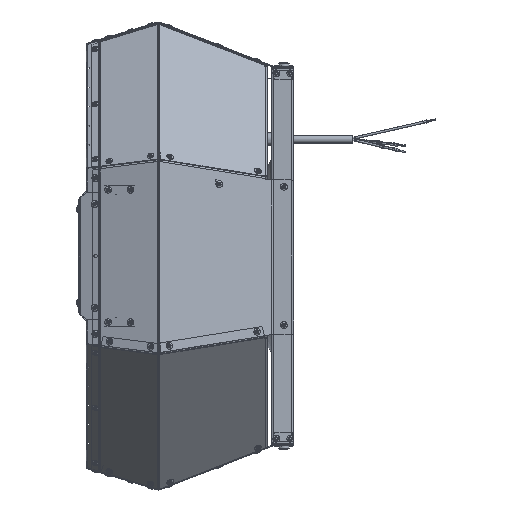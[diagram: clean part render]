
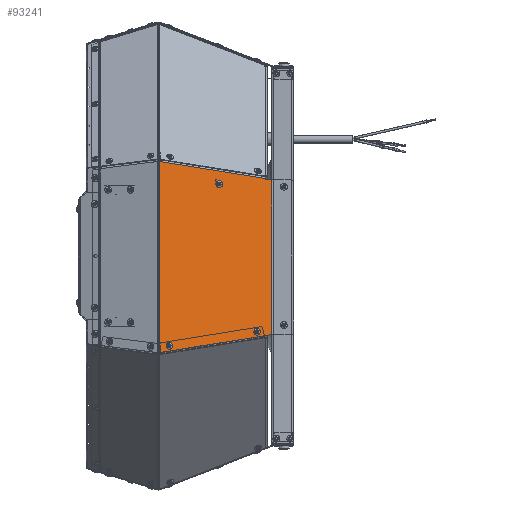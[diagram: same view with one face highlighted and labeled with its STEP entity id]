
A CAD part, left-side view. The second image highlights one B-rep face of the part: STEP entity #93241.
In plain terms, the highlighted planar face has unit normal (-0.932, -0.362, 0).
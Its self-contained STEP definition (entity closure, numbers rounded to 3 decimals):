
#13380 = DIRECTION ( 'NONE',  ( 0.932, 0.362, 0. ) ) ;
#13384 = CARTESIAN_POINT ( 'NONE',  ( -266.123, 120.02, -103.806 ) ) ;
#13401 = CARTESIAN_POINT ( 'NONE',  ( -270.356, 130.903, 111.75 ) ) ;
#13403 = DIRECTION ( 'NONE',  ( 0., 0., -1. ) ) ;
#13691 = DIRECTION ( 'NONE',  ( 0., 0., -1. ) ) ;
#13702 = CARTESIAN_POINT ( 'NONE',  ( -220.093, 1.654, 111.75 ) ) ;
#13753 = DIRECTION ( 'NONE',  ( -0.358, 0.922, 0.148 ) ) ;
#13755 = CARTESIAN_POINT ( 'NONE',  ( -220.221, 1.982, 88.584 ) ) ;
#13761 = DIRECTION ( 'NONE',  ( -0.362, 0.932, 0. ) ) ;
#24555 = AXIS2_PLACEMENT_3D ( 'NONE', #44067, #44057, #44069 ) ;
#25311 = CARTESIAN_POINT ( 'NONE',  ( -220.093, 1.654, 88.025 ) ) ;
#25319 = DIRECTION ( 'NONE',  ( 0.362, -0.932, 0. ) ) ;
#25377 = CARTESIAN_POINT ( 'NONE',  ( -270.34, 130.864, 109.267 ) ) ;
#25386 = DIRECTION ( 'NONE',  ( 0.362, -0.932, 0. ) ) ;
#25426 = DIRECTION ( 'NONE',  ( -0.932, -0.362, 0. ) ) ;
#25428 = CARTESIAN_POINT ( 'NONE',  ( -243.652, 62.234, 83.121 ) ) ;
#25512 = DIRECTION ( 'NONE',  ( 0.362, -0.932, 0. ) ) ;
#31707 = VERTEX_POINT ( 'NONE', #84206 ) ;
#31717 = VERTEX_POINT ( 'NONE', #84188 ) ;
#31885 = VERTEX_POINT ( 'NONE', #83421 ) ;
#31984 = VERTEX_POINT ( 'NONE', #83761 ) ;
#32043 = VERTEX_POINT ( 'NONE', #83948 ) ;
#37798 = AXIS2_PLACEMENT_3D ( 'NONE', #25428, #25426, #25319 ) ;
#37835 = AXIS2_PLACEMENT_3D ( 'NONE', #13384, #13380, #13761 ) ;
#37904 = AXIS2_PLACEMENT_3D ( 'NONE', #45054, #44558, #44272 ) ;
#37906 = AXIS2_PLACEMENT_3D ( 'NONE', #45055, #44570, #45107 ) ;
#37908 = AXIS2_PLACEMENT_3D ( 'NONE', #44275, #44279, #44290 ) ;
#37915 = AXIS2_PLACEMENT_3D ( 'NONE', #44670, #44668, #44630 ) ;
#44057 = DIRECTION ( 'NONE',  ( 0.932, 0.362, 0. ) ) ;
#44067 = CARTESIAN_POINT ( 'NONE',  ( -270.653, 131.669, 111.75 ) ) ;
#44068 = PLANE ( 'NONE',  #24555 ) ;
#44069 = DIRECTION ( 'NONE',  ( -0.362, 0.932, 0. ) ) ;
#44272 = DIRECTION ( 'NONE',  ( -0.362, 0.932, 0. ) ) ;
#44275 = CARTESIAN_POINT ( 'NONE',  ( -226.695, 18.63, -87.481 ) ) ;
#44279 = DIRECTION ( 'NONE',  ( 0.932, 0.362, 0. ) ) ;
#44290 = DIRECTION ( 'NONE',  ( -0.362, 0.932, 0. ) ) ;
#44431 = DIRECTION ( 'NONE',  ( 0., 0., -1. ) ) ;
#44433 = CARTESIAN_POINT ( 'NONE',  ( -222.634, 8.188, 88.025 ) ) ;
#44558 = DIRECTION ( 'NONE',  ( 0.932, 0.362, 0. ) ) ;
#44570 = DIRECTION ( 'NONE',  ( 0.932, 0.362, 0. ) ) ;
#44630 = DIRECTION ( 'NONE',  ( 0.362, -0.932, 0. ) ) ;
#44668 = DIRECTION ( 'NONE',  ( -0.932, -0.362, 0. ) ) ;
#44670 = CARTESIAN_POINT ( 'NONE',  ( -243.652, 62.234, 83.121 ) ) ;
#44698 = CARTESIAN_POINT ( 'NONE',  ( -220.093, 1.654, -90.93 ) ) ;
#44712 = DIRECTION ( 'NONE',  ( -0.358, 0.922, -0.148 ) ) ;
#44983 = CARTESIAN_POINT ( 'NONE',  ( -270.34, 130.864, 109.267 ) ) ;
#45054 = CARTESIAN_POINT ( 'NONE',  ( -266.123, 120.02, -103.806 ) ) ;
#45055 = CARTESIAN_POINT ( 'NONE',  ( -226.695, 18.63, -87.481 ) ) ;
#45107 = DIRECTION ( 'NONE',  ( -0.362, 0.932, 0. ) ) ;
#45108 = DIRECTION ( 'NONE',  ( 0.127, -0.327, 0.936 ) ) ;
#49720 = LINE ( 'NONE', #25377, #49732 ) ;
#49732 = VECTOR ( 'NONE', #25386, 1000. ) ;
#49813 = CIRCLE ( 'NONE', #37798, 2.1 ) ;
#49816 = LINE ( 'NONE', #25311, #49828 ) ;
#49828 = VECTOR ( 'NONE', #25512, 1000. ) ;
#50104 = LINE ( 'NONE', #13401, #50110 ) ;
#50107 = CIRCLE ( 'NONE', #37835, 2.1 ) ;
#50110 = VECTOR ( 'NONE', #13403, 1000. ) ;
#50212 = LINE ( 'NONE', #13702, #50233 ) ;
#50233 = VECTOR ( 'NONE', #13691, 1000. ) ;
#50446 = LINE ( 'NONE', #13755, #50476 ) ;
#50476 = VECTOR ( 'NONE', #13753, 1000. ) ;
#50781 = FACE_BOUND ( 'NONE', #65485, .T. ) ;
#50787 = FACE_BOUND ( 'NONE', #65460, .T. ) ;
#50790 = FACE_OUTER_BOUND ( 'NONE', #65442, .T. ) ;
#50793 = FACE_BOUND ( 'NONE', #65475, .T. ) ;
#50833 = LINE ( 'NONE', #44983, #50839 ) ;
#50839 = VECTOR ( 'NONE', #45108, 1000. ) ;
#50842 = CIRCLE ( 'NONE', #37904, 2.1 ) ;
#50857 = CIRCLE ( 'NONE', #37906, 2.1 ) ;
#50878 = CIRCLE ( 'NONE', #37908, 2.1 ) ;
#50932 = CIRCLE ( 'NONE', #37915, 2.1 ) ;
#50947 = LINE ( 'NONE', #44698, #50956 ) ;
#50956 = VECTOR ( 'NONE', #44712, 1000. ) ;
#51100 = LINE ( 'NONE', #44433, #51109 ) ;
#51109 = VECTOR ( 'NONE', #44431, 1000. ) ;
#55689 = CARTESIAN_POINT ( 'NONE',  ( -225.934, 16.673, -87.481 ) ) ;
#55888 = CARTESIAN_POINT ( 'NONE',  ( -266.884, 121.977, -103.806 ) ) ;
#56010 = CARTESIAN_POINT ( 'NONE',  ( -220.093, 1.654, 88.025 ) ) ;
#56266 = CARTESIAN_POINT ( 'NONE',  ( -244.413, 64.192, 83.121 ) ) ;
#56378 = CARTESIAN_POINT ( 'NONE',  ( -270.34, 130.864, 109.267 ) ) ;
#56525 = CARTESIAN_POINT ( 'NONE',  ( -270.356, 130.903, 109.267 ) ) ;
#56552 = CARTESIAN_POINT ( 'NONE',  ( -270.33, 130.838, 109.34 ) ) ;
#56642 = CARTESIAN_POINT ( 'NONE',  ( -227.456, 20.587, -87.481 ) ) ;
#56673 = CARTESIAN_POINT ( 'NONE',  ( -220.093, 1.654, -90.93 ) ) ;
#65442 = EDGE_LOOP ( 'NONE', ( #77656, #77669, #77345, #77670, #77671, #78740, #78067, #78061 ) ) ;
#65460 = EDGE_LOOP ( 'NONE', ( #77714, #77658 ) ) ;
#65475 = EDGE_LOOP ( 'NONE', ( #78058, #77716 ) ) ;
#65485 = EDGE_LOOP ( 'NONE', ( #78057, #78066 ) ) ;
#66330 = EDGE_CURVE ( 'NONE', #89613, #89527, #49720, .T. ) ;
#66352 = EDGE_CURVE ( 'NONE', #89467, #31885, #49813, .T. ) ;
#66355 = EDGE_CURVE ( 'NONE', #31717, #89329, #49816, .T. ) ;
#66424 = EDGE_CURVE ( 'NONE', #89613, #31707, #50104, .T. ) ;
#66425 = EDGE_CURVE ( 'NONE', #89263, #32043, #50107, .T. ) ;
#66454 = EDGE_CURVE ( 'NONE', #89329, #89769, #50212, .T. ) ;
#66512 = EDGE_CURVE ( 'NONE', #31984, #89639, #50446, .T. ) ;
#66592 = EDGE_CURVE ( 'NONE', #89527, #89639, #50833, .T. ) ;
#66594 = EDGE_CURVE ( 'NONE', #32043, #89263, #50842, .T. ) ;
#66597 = EDGE_CURVE ( 'NONE', #89156, #89735, #50857, .T. ) ;
#66602 = EDGE_CURVE ( 'NONE', #89735, #89156, #50878, .T. ) ;
#66617 = EDGE_CURVE ( 'NONE', #31885, #89467, #50932, .T. ) ;
#66620 = EDGE_CURVE ( 'NONE', #89769, #31707, #50947, .T. ) ;
#66652 = EDGE_CURVE ( 'NONE', #31984, #31717, #51100, .T. ) ;
#77345 = ORIENTED_EDGE ( 'NONE', *, *, #66424, .T. ) ;
#77656 = ORIENTED_EDGE ( 'NONE', *, *, #66592, .F. ) ;
#77658 = ORIENTED_EDGE ( 'NONE', *, *, #66594, .T. ) ;
#77669 = ORIENTED_EDGE ( 'NONE', *, *, #66330, .F. ) ;
#77670 = ORIENTED_EDGE ( 'NONE', *, *, #66620, .F. ) ;
#77671 = ORIENTED_EDGE ( 'NONE', *, *, #66454, .F. ) ;
#77714 = ORIENTED_EDGE ( 'NONE', *, *, #66425, .T. ) ;
#77716 = ORIENTED_EDGE ( 'NONE', *, *, #66597, .T. ) ;
#78057 = ORIENTED_EDGE ( 'NONE', *, *, #66617, .F. ) ;
#78058 = ORIENTED_EDGE ( 'NONE', *, *, #66602, .T. ) ;
#78061 = ORIENTED_EDGE ( 'NONE', *, *, #66512, .T. ) ;
#78066 = ORIENTED_EDGE ( 'NONE', *, *, #66352, .F. ) ;
#78067 = ORIENTED_EDGE ( 'NONE', *, *, #66652, .F. ) ;
#78740 = ORIENTED_EDGE ( 'NONE', *, *, #66355, .F. ) ;
#83421 = CARTESIAN_POINT ( 'NONE',  ( -242.891, 60.277, 83.121 ) ) ;
#83761 = CARTESIAN_POINT ( 'NONE',  ( -222.634, 8.188, 89.583 ) ) ;
#83948 = CARTESIAN_POINT ( 'NONE',  ( -265.362, 118.063, -103.806 ) ) ;
#84188 = CARTESIAN_POINT ( 'NONE',  ( -222.634, 8.188, 88.025 ) ) ;
#84206 = CARTESIAN_POINT ( 'NONE',  ( -270.356, 130.903, -111.75 ) ) ;
#89156 = VERTEX_POINT ( 'NONE', #55689 ) ;
#89263 = VERTEX_POINT ( 'NONE', #55888 ) ;
#89329 = VERTEX_POINT ( 'NONE', #56010 ) ;
#89467 = VERTEX_POINT ( 'NONE', #56266 ) ;
#89527 = VERTEX_POINT ( 'NONE', #56378 ) ;
#89613 = VERTEX_POINT ( 'NONE', #56525 ) ;
#89639 = VERTEX_POINT ( 'NONE', #56552 ) ;
#89735 = VERTEX_POINT ( 'NONE', #56642 ) ;
#89769 = VERTEX_POINT ( 'NONE', #56673 ) ;
#93241 = ADVANCED_FACE ( 'NONE', ( #50781, #50793, #50787, #50790 ), #44068, .F. ) ;
